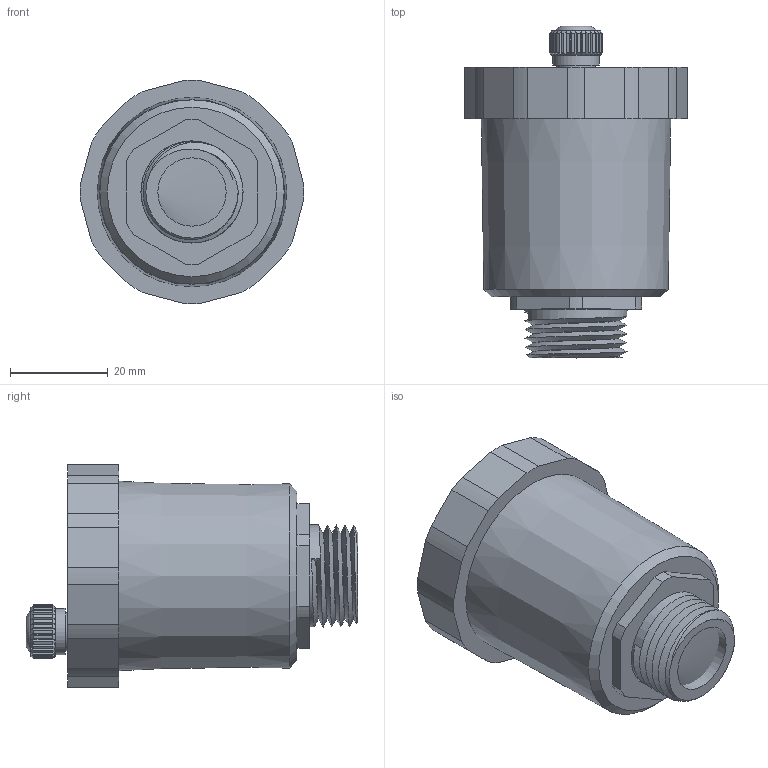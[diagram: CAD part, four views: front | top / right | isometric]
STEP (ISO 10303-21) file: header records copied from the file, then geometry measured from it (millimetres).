
FILE_DESCRIPTION(('STEP AP242'), '1');
FILE_NAME('AV00E-T ﾂ鰀蔘ⅳ粽蔔韭 DN.ru', '', ('UNSPECIFIED'), ('UNSPECIFIED'), 'C3D Converter', 'C3D Toolkit', '');
FILE_SCHEMA(('AP242_MANAGED_MODEL_BASED_3D_ENGINEERING_MIM_LF { 1 0 10303 442 1 1 4 }'));
Length unit declared in the file: millimetre
Products named in the file (1): AV00E-T
Bounding box: 45.79 x 68 x 45.79 mm (x, y, z)
Volume: 61782 mm3; surface area: 11765.9 mm2
Topology: 1 solids, 2 shells, 295 faces, 703 edges, 428 vertices
Faces by surface type: plane 137, cone 64, cylinder 60, extrusion 30, torus 2, bspline 2
Full cylindrical faces by diameter (mm): 7.8 x1, 9.5 x1, 14 x2, 17.5 x2, 20.9 x1
Entity records: 16204 total; most frequent: CARTESIAN_POINT 7245, ORIENTED_EDGE 1388, DIRECTION 1228, EDGE_CURVE 694, AXIS2_PLACEMENT_3D 441, VERTEX_POINT 427, VECTOR 346, EDGE_LOOP 319
